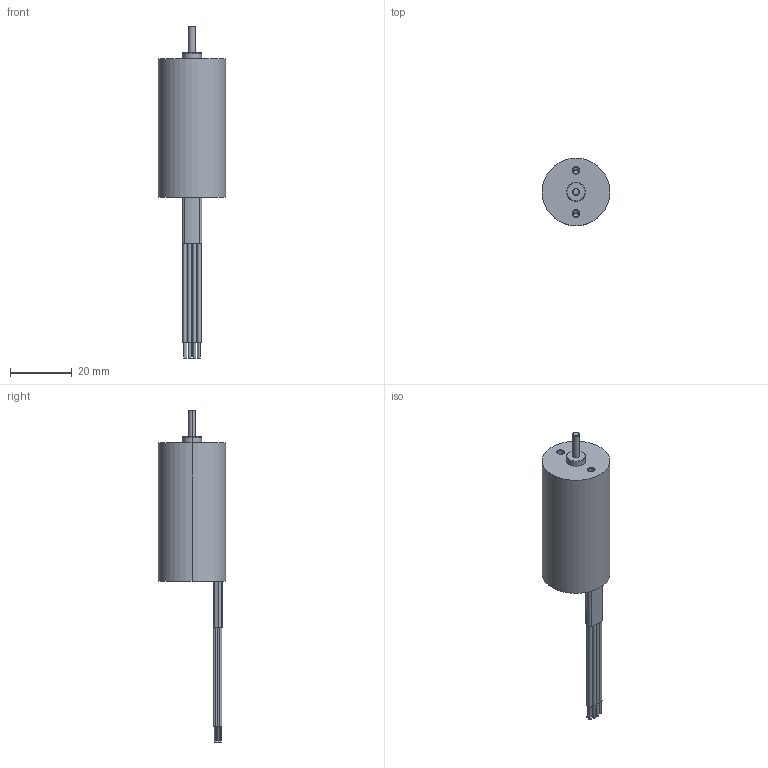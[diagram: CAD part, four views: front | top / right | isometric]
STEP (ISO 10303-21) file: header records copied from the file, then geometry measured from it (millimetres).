
FILE_DESCRIPTION (( 'STEP AP214' ), '1' );
FILE_NAME ('BLWR09 Series.STEP', '2009-12-11T19:05:34', ( 'Tim Raines' ), ( 'Anaheim Automation' ), 'SwSTEP 2.0', 'SolidWorks 2010', '' );
FILE_SCHEMA (( 'AUTOMOTIVE_DESIGN' ));
Length unit declared in the file: millimetre
Products named in the file (1): BLWR09 Series
Bounding box: 22 x 22 x 107.95 mm (x, y, z)
Volume: 17487.3 mm3; surface area: 6298.4 mm2
Topology: 2 solids, 2 shells, 136 faces, 303 edges, 186 vertices
Faces by surface type: cylinder 75, plane 31, cone 30
Entity records: 5274 total; most frequent: DIRECTION 733, CARTESIAN_POINT 614, ORIENTED_EDGE 582, AXIS2_PLACEMENT_3D 305, EDGE_CURVE 291, VERTEX_POINT 186, CIRCLE 168, EDGE_LOOP 165
